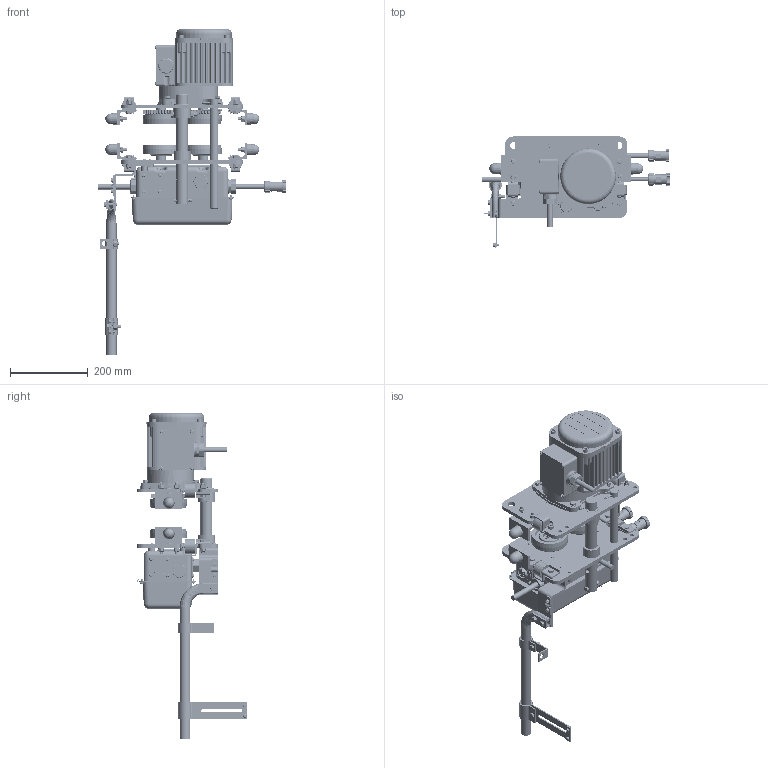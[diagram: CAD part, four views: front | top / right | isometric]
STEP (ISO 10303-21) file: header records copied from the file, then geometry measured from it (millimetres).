
FILE_DESCRIPTION (( 'STEP AP214' ), '1' );
FILE_NAME ('MR2010L.STEP', '2026-08-05T20:37:49', ( '' ), ( '' ), 'SwSTEP 2.0', 'SolidWorks 2026', '' );
FILE_SCHEMA (( 'AUTOMOTIVE_DESIGN' ));
Length unit declared in the file: inch
Products named in the file (92): MS006010; 9012513; 90912134; Socket Head Cap Screw_AM_B18.3.1M - 10 x 1.5 x 20 Hex SHCS -- 20NHX; MR1DS9634; MR1DS1493; MS517010; MR1DS9218; 16-4 (MR2); MS551010; MS1101010; MR1DS9411; E6F630010S; T6G156020; MR1DS1211; MR2DS1759; split pin (metric) as_9009414-5; MR1DS1481; hex nut style 1_am_9093424; MR1DS9501; ES558003; ECP2108AC; MR1DS9203; MR1DS9324; M6FE010S9113; KITO-WASHER; hex cap screw_am_9093329; E6F151003; 70130XX_7013001; ECP5924AD1; MR1DS93112; basic internal retaining ring_am_B27.7M - 3BM1-42; ECP5924AC1; basic internal retaining ring_am_9047242; MS554010; MR1DS9201; MR2SHM10S9A8; MR1DS1301; ECP6912AA; 9009432_9009432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
Assembly tree (219 placements, depth 5):
  MR2010L
    MR1DS5201
      MR1DS9201
      MR1DS9203  x2
      M6FE010S9113
    MR1DS5202
      MR1DS9202
      MR1DS9203  x2
      M6FE010S9114
    MSF115010_MSF115010
    MR1DS9634  x4
    hex cap screw_am_9093330  x8
    single coil rectangular section spring washer_bsi_9012711  x20
    hex nut style 1_am_9093424  x16
    MR1DS9631  x4
    MS006010  x4
    MR1DS1211_Reversed  x2
      MR1DS1211
      MR1DS9218
    MR1DS1211  x2
      MR1DS1211
      MR1DS9218
    MS1101010  x2
      M6SE010S9101
      6302Z BEARING
      basic internal retaining ring_am_9047242
    hex cap screw_am_9093329  x4
    MS1102010  x2
      M6SE010S9102
      radial ball bearing_68_am_AFBMA 20.1 - 03-15 - Full,SI,NC,Full_68
      basic internal retaining ring_am_B27.7M - 3BM1-42
    MR1DS9131_MR1DS9131
    9009446_9009446  x2
    MS161010
    T6G156020
    9009432_9009432
    hexagon slotted nut low_1 small_jis_T3P154020
    split pin (metric) as_9009414-5
    9047115_9047115  x4
    MS104010  x4
    6077801
      MR1DS93112
      MR1DS9324
      MR1DS9325
      MR1DS1301
      90912134  x4
      MS554010  x4
    9012513  x4
    hex cap screw_am_9093328  x4
    MR1DS9248
    70130XX_7013001
      MR1DS9411
      MR1DS9401_1 - 8 TON & 10 L TON
      MR1DS9421
      MS554010  x12
      MR2DS2811
        ECP5924AH
        MS527010
        MR2DI1811
        ES558003  x4
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Bounding box: 483.05 x 285.45 x 841.28 mm (x, y, z)
Volume: 5557179.2 mm3; surface area: 1829583.2 mm2
Topology: 246 solids, 254 shells, 8229 faces, 21477 edges, 14002 vertices
Faces by surface type: plane 4003, cylinder 2432, cone 926, torus 456, bspline 388, sphere 24
Entity records: 189244 total; most frequent: CARTESIAN_POINT 69246, ORIENTED_EDGE 24702, DIRECTION 23156, EDGE_CURVE 12353, AXIS2_PLACEMENT_3D 8414, VERTEX_POINT 8238, LINE 6328, VECTOR 6328
